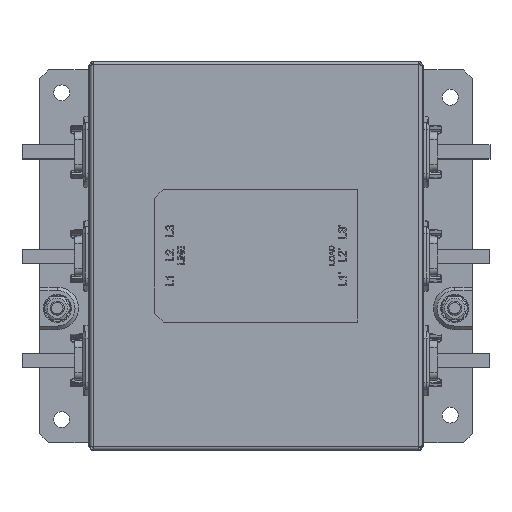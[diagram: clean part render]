
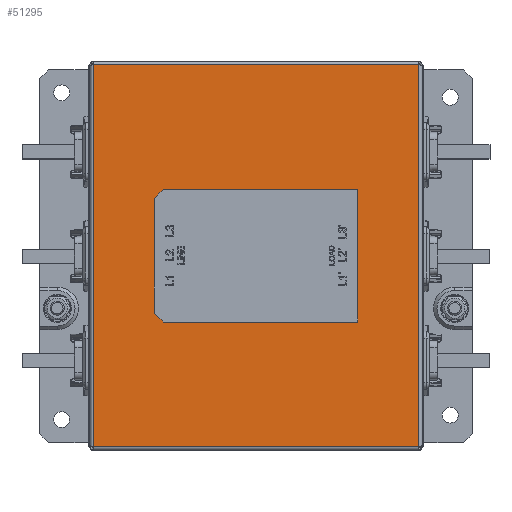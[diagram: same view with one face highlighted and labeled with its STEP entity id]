
A CAD part, top view. The second image highlights one B-rep face of the part: STEP entity #51295.
In plain terms, the highlighted planar face has unit normal (0, 0, 1).
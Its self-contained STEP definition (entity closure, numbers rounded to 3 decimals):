
#2700=LINE('',#71441,#7153);
#2703=LINE('',#71446,#7156);
#2705=LINE('',#71450,#7158);
#2707=LINE('',#71454,#7160);
#2709=LINE('',#71458,#7162);
#2711=LINE('',#71461,#7164);
#6149=LINE('',#97210,#10602);
#6197=LINE('',#97470,#10650);
#6246=LINE('',#97819,#10699);
#6255=LINE('',#97890,#10708);
#7153=VECTOR('',#56741,110.);
#7156=VECTOR('',#56746,7.071);
#7158=VECTOR('',#56750,65.);
#7160=VECTOR('',#56754,7.071);
#7162=VECTOR('',#56758,110.);
#7164=VECTOR('',#56762,75.);
#10602=VECTOR('',#67818,216.4);
#10650=VECTOR('',#67920,184.4);
#10699=VECTOR('',#68027,184.4);
#10708=VECTOR('',#68052,216.4);
#12254=PLANE('',#55591);
#12491=FACE_BOUND('',#18026,.T.);
#15139=FACE_OUTER_BOUND('',#18025,.T.);
#18025=EDGE_LOOP('',(#43878,#43879,#43880,#43881));
#18026=EDGE_LOOP('',(#43882,#43883,#43884,#43885,#43886,#43887));
#19946=VERTEX_POINT('',#71439);
#19947=VERTEX_POINT('',#71440);
#19948=VERTEX_POINT('',#71445);
#19949=VERTEX_POINT('',#71449);
#19950=VERTEX_POINT('',#71453);
#19951=VERTEX_POINT('',#71457);
#23564=VERTEX_POINT('',#97204);
#23565=VERTEX_POINT('',#97209);
#23607=VERTEX_POINT('',#97467);
#23640=VERTEX_POINT('',#97818);
#24545=EDGE_CURVE('',#19946,#19947,#2700,.T.);
#24548=EDGE_CURVE('',#19947,#19948,#2703,.T.);
#24550=EDGE_CURVE('',#19948,#19949,#2705,.T.);
#24552=EDGE_CURVE('',#19949,#19950,#2707,.T.);
#24554=EDGE_CURVE('',#19950,#19951,#2709,.T.);
#24556=EDGE_CURVE('',#19951,#19946,#2711,.T.);
#30414=EDGE_CURVE('',#23565,#23564,#6149,.T.);
#30478=EDGE_CURVE('',#23564,#23607,#6197,.T.);
#30546=EDGE_CURVE('',#23640,#23565,#6246,.T.);
#30562=EDGE_CURVE('',#23640,#23607,#6255,.T.);
#43878=ORIENTED_EDGE('',*,*,#30562,.F.);
#43879=ORIENTED_EDGE('',*,*,#30546,.T.);
#43880=ORIENTED_EDGE('',*,*,#30414,.T.);
#43881=ORIENTED_EDGE('',*,*,#30478,.T.);
#43882=ORIENTED_EDGE('',*,*,#24545,.T.);
#43883=ORIENTED_EDGE('',*,*,#24548,.T.);
#43884=ORIENTED_EDGE('',*,*,#24550,.T.);
#43885=ORIENTED_EDGE('',*,*,#24552,.T.);
#43886=ORIENTED_EDGE('',*,*,#24554,.T.);
#43887=ORIENTED_EDGE('',*,*,#24556,.T.);
#51295=ADVANCED_FACE('',(#15139,#12491),#12254,.T.);
#55591=AXIS2_PLACEMENT_3D('',#98089,#68185,#68186);
#56741=DIRECTION('',(-1.,0.,0.));
#56746=DIRECTION('',(-0.707,0.707,0.));
#56750=DIRECTION('',(0.,1.,0.));
#56754=DIRECTION('',(0.707,0.707,0.));
#56758=DIRECTION('',(1.,0.,0.));
#56762=DIRECTION('',(0.,-1.,0.));
#67818=DIRECTION('',(0.,1.,0.));
#67920=DIRECTION('',(-1.,0.,0.));
#68027=DIRECTION('',(1.,0.,0.));
#68052=DIRECTION('',(0.,1.,0.));
#68185=DIRECTION('center_axis',(0.,0.,1.));
#68186=DIRECTION('ref_axis',(0.,1.,0.));
#71439=CARTESIAN_POINT('',(57.5,-37.5,140.));
#71440=CARTESIAN_POINT('',(-52.5,-37.5,140.));
#71441=CARTESIAN_POINT('',(57.5,-37.5,140.));
#71445=CARTESIAN_POINT('',(-57.5,-32.5,140.));
#71446=CARTESIAN_POINT('',(-52.5,-37.5,140.));
#71449=CARTESIAN_POINT('',(-57.5,32.5,140.));
#71450=CARTESIAN_POINT('',(-57.5,-32.5,140.));
#71453=CARTESIAN_POINT('',(-52.5,37.5,140.));
#71454=CARTESIAN_POINT('',(-57.5,32.5,140.));
#71457=CARTESIAN_POINT('',(57.5,37.5,140.));
#71458=CARTESIAN_POINT('',(-52.5,37.5,140.));
#71461=CARTESIAN_POINT('',(57.5,37.5,140.));
#97204=CARTESIAN_POINT('',(92.2,108.2,140.));
#97209=CARTESIAN_POINT('',(92.2,-108.2,140.));
#97210=CARTESIAN_POINT('',(92.2,-108.2,140.));
#97467=CARTESIAN_POINT('',(-92.2,108.2,140.));
#97470=CARTESIAN_POINT('',(92.2,108.2,140.));
#97818=CARTESIAN_POINT('',(-92.2,-108.2,140.));
#97819=CARTESIAN_POINT('',(-92.2,-108.2,140.));
#97890=CARTESIAN_POINT('',(-92.2,-108.2,140.));
#98089=CARTESIAN_POINT('Origin',(-92.195,-90.005,140.));
